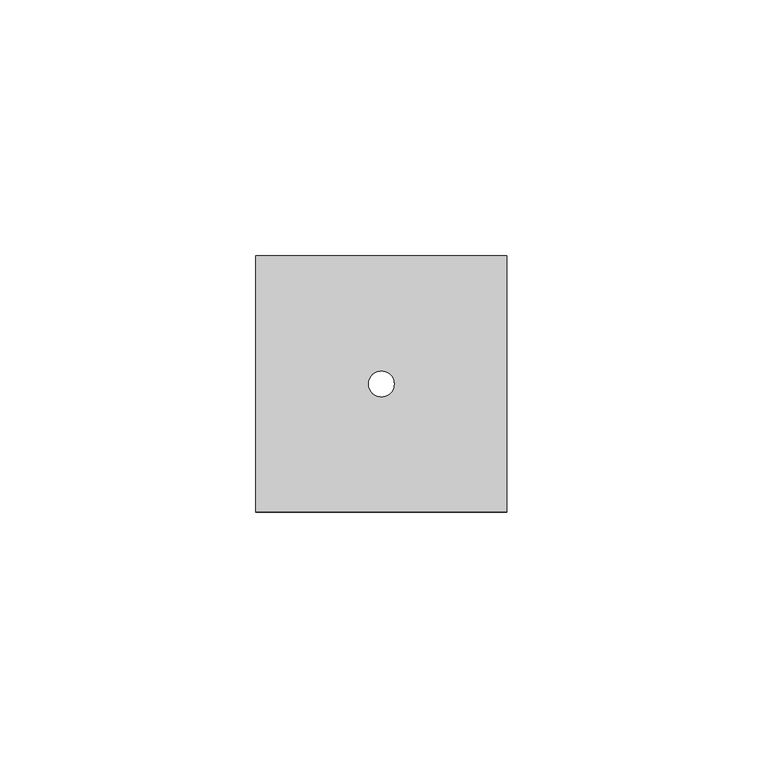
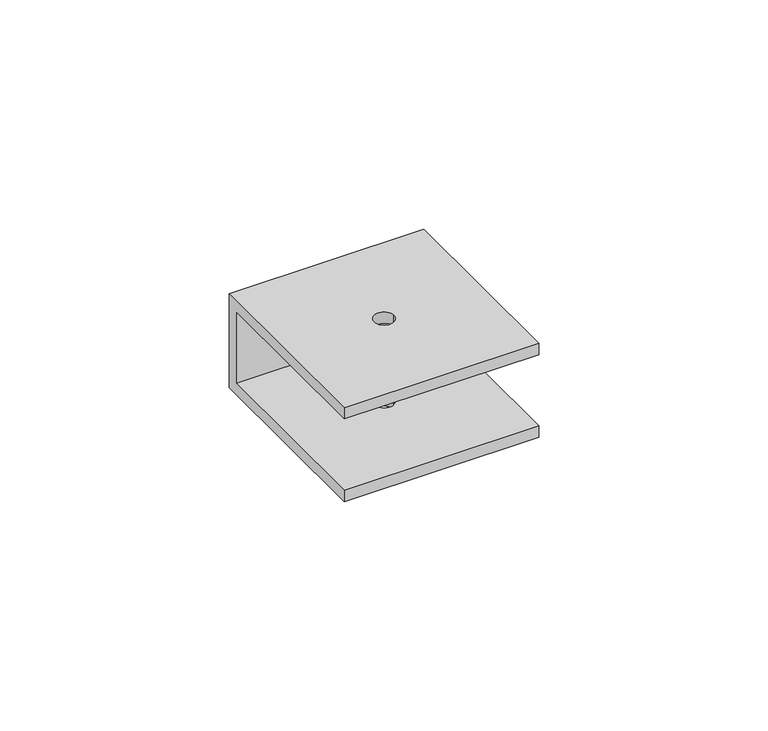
"""IFC4 building model written with IfcOpenShell, lengths in millimetres: proxy geometry, CV-EP6-01 END CAP : CV-EP6-01 END CAP."""

from ifc_helpers import new_model, si_unit, frame, origin, place, context, project, spatial, polyline, circle_curve, source, transform, mapped, element, save
from ifc_brep_helpers import plane_surface, revolved_surface, advanced_brep


def generic_models_fdf49503(model_context):
    return source(origin(), model_context, "Body", "AdvancedBrep", [
        advanced_brep(
        [(49.0, 0.0, 25.0), (49.0, -50.0, 25.0), (49.0, -50.0, 22.0), (49.0, -3.0, 22.0), (49.0, -3.0, 3.0), (49.0, -50.0, 3.0), (49.0, -50.0, 0.0), (49.0, 0.0, 0.0), (0.0, 0.0, 25.0), (0.0, 0.0, 0.0), (0.0, -50.0, 0.0), (0.0, -50.0, 3.0), (0.0, -3.0, 3.0), (0.0, -3.0, 22.0), (0.0, -50.0, 22.0), (0.0, -50.0, 25.0), (27.0, -25.0, 25.0), (22.0, -25.0, 25.0), (22.0, -25.0, 22.0), (27.0, -25.0, 22.0), (27.0, -25.0, 3.0), (22.0, -25.0, 3.0), (22.0, -25.0, 0.0), (27.0, -25.0, 0.0)],
        [
            (0, 1),
            (1, 2),
            (2, 3),
            (3, 4),
            (4, 5),
            (5, 6),
            (6, 7),
            (7, 0),
            (8, 9),
            (9, 10),
            (10, 11),
            (11, 12),
            (12, 13),
            (13, 14),
            (14, 15),
            (15, 8),
            (0, 8),
            (15, 1),
            (16, 17, circle_curve(frame((24.5, -25.0, 25.0), z_axis=(0.0, 0.0, -1.0), x_axis=(1.0, 0.0, 0.0)), 2.5)),
            (17, 16, circle_curve(frame((24.5, -25.0, 25.0), z_axis=(0.0, 0.0, -1.0), x_axis=(1.0, 0.0, 0.0)), 2.5)),
            (14, 2),
            (13, 3),
            (18, 19, circle_curve(frame((24.5, -25.0, 22.0), z_axis=(0.0, 0.0, 1.0), x_axis=(1.0, 0.0, 0.0)), 2.5)),
            (19, 18, circle_curve(frame((24.5, -25.0, 22.0), z_axis=(0.0, 0.0, 1.0), x_axis=(1.0, 0.0, 0.0)), 2.5)),
            (12, 4),
            (11, 5),
            (20, 21, circle_curve(frame((24.5, -25.0, 3.0), z_axis=(0.0, 0.0, -1.0), x_axis=(1.0, 0.0, 0.0)), 2.5)),
            (21, 20, circle_curve(frame((24.5, -25.0, 3.0), z_axis=(0.0, 0.0, -1.0), x_axis=(1.0, 0.0, 0.0)), 2.5)),
            (10, 6),
            (9, 7),
            (22, 23, circle_curve(frame((24.5, -25.0, 0.0), z_axis=(0.0, 0.0, 1.0), x_axis=(1.0, 0.0, 0.0)), 2.5)),
            (23, 22, circle_curve(frame((24.5, -25.0, 0.0), z_axis=(0.0, 0.0, 1.0), x_axis=(1.0, 0.0, 0.0)), 2.5)),
            (18, 17),
            (16, 19),
            (22, 21),
            (20, 23),
        ],
        [
            plane_surface(frame((49.0, 0.0, 25.0), z_axis=(1.0, 0.0, 0.0), x_axis=(0.0, -1.0, 0.0))),
            plane_surface(frame((0.0, 0.0, 25.0), z_axis=(-1.0, 0.0, 0.0), x_axis=(0.0, 1.0, 0.0))),
            plane_surface(frame((49.0, 0.0, 25.0), z_axis=(0.0, 0.0, 1.0), x_axis=(-1.0, 0.0, 0.0))),
            plane_surface(frame((49.0, -50.0, 25.0), z_axis=(0.0, -1.0, 0.0), x_axis=(-1.0, 0.0, 0.0))),
            plane_surface(frame((49.0, -50.0, 22.0), z_axis=(0.0, 0.0, -1.0), x_axis=(-1.0, 0.0, 0.0))),
            plane_surface(frame((49.0, -3.0, 22.0), z_axis=(0.0, -1.0, 0.0), x_axis=(-1.0, 0.0, 0.0))),
            plane_surface(frame((49.0, -3.0, 3.0), z_axis=(0.0, 0.0, 1.0), x_axis=(-1.0, 0.0, 0.0))),
            plane_surface(frame((49.0, -50.0, 3.0), z_axis=(0.0, -1.0, 0.0), x_axis=(-1.0, 0.0, 0.0))),
            plane_surface(frame((49.0, -50.0, 0.0), z_axis=(0.0, 0.0, -1.0), x_axis=(-1.0, 0.0, 0.0))),
            plane_surface(frame((49.0, 0.0, 0.0), z_axis=(0.0, 1.0, 0.0), x_axis=(-1.0, 0.0, 0.0))),
            revolved_surface(polyline([(27.0, -25.0, 25.0), (27.0, -25.0, 22.0)]), (24.5, -25.0, 0.0), (0.0, 0.0, 1.0)),
            revolved_surface(polyline([(27.0, -25.0, 3.0), (27.0, -25.0, 0.0)]), (24.5, -25.0, 0.0), (0.0, 0.0, 1.0)),
        ],
        [
            (0, [[1, 2, 3, 4, 5, 6, 7, 8]]),
            (1, [[9, 10, 11, 12, 13, 14, 15, 16]]),
            (2, [[-1, 17, -16, 18], [19, 20]]),
            (3, [[-2, -18, -15, 21]]),
            (4, [[-3, -21, -14, 22], [23, 24]]),
            (5, [[-4, -22, -13, 25]]),
            (6, [[-5, -25, -12, 26], [27, 28]]),
            (7, [[-6, -26, -11, 29]]),
            (8, [[-7, -29, -10, 30], [31, 32]]),
            (9, [[-8, -30, -9, -17]]),
            (10, [[33, -19, 34, -23]]),
            (11, [[35, -27, 36, -31]]),
            (10, [[-33, -24, -34, -20]]),
            (11, [[-35, -32, -36, -28]]),
        ],
    ),
    ])


if __name__ == "__main__":
    model = new_model("IFC4")
    model_context = context("Model", 3, world=origin())
    ifc_project = project(units=[si_unit("LENGTHUNIT", "METRE", prefix="MILLI")], contexts=[model_context])
    site = spatial("IfcSite", under=ifc_project)
    building = spatial("IfcBuilding", under=site)
    placement = place(None, origin())
    generic_models_shape = generic_models_fdf49503(model_context)
    element("IfcBuildingElementProxy", 1, Name="CV-EP6-01 END CAP : CV-EP6-01 END CAP", ObjectType="CV-EP6-01 END CAP : CV-EP6-01 END CAP", at=placement, inside=building, context=model_context, shape_type="MappedRepresentation", body=[
        mapped(generic_models_shape, transform((0.0, 0.0, 0.0), x_axis=(1.0, 0.0, 0.0), y_axis=(0.0, 1.0, 0.0), z_axis=(0.0, 0.0, 1.0))),
    ])
    save(model, "model.ifc")
